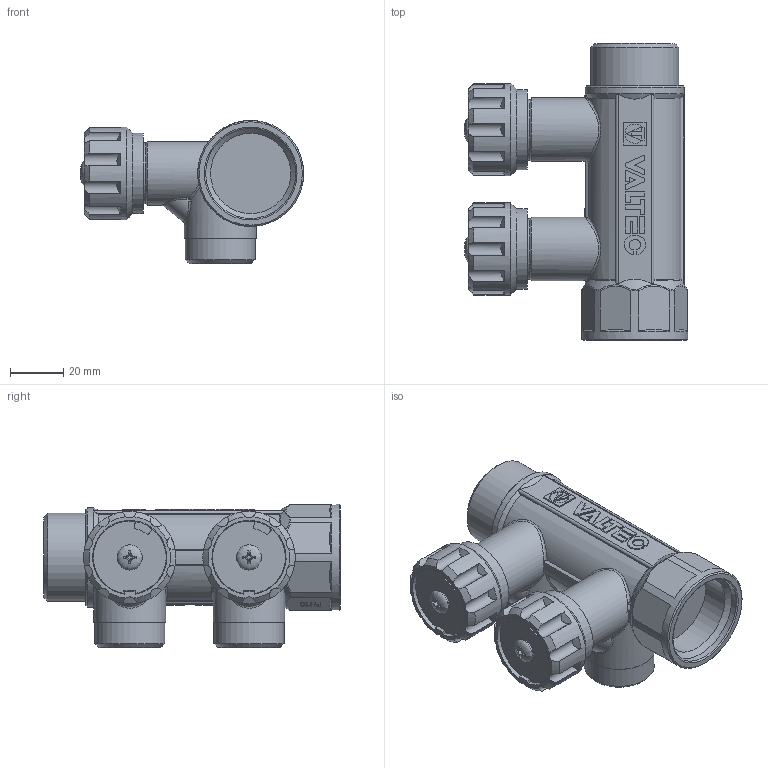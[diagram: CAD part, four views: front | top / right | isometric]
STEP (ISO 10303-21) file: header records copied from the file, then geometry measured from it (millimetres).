
FILE_DESCRIPTION(('STEP AP203'), '1');
FILE_NAME('VTc.570.NE.0602', '2024-06-18T07:21:11', ('User'), ('Vesta'), 'C3D Converter', 'C3D Toolkit', '');
FILE_SCHEMA(('CONFIG_CONTROL_DESIGN'));
Length unit declared in the file: millimetre
Products named in the file (1): ВР.622621.018.000 СБ
Bounding box: 84.28 x 112 x 54 mm (x, y, z)
Volume: 177692.1 mm3; surface area: 32518.7 mm2
Topology: 1 solids, 1 shells, 964 faces, 2685 edges, 1771 vertices
Faces by surface type: plane 396, extrusion 350, cylinder 108, cone 65, bspline 31, torus 14
Full cylindrical faces by diameter (mm): 9.5 x2, 18.1 x2, 23 x2, 24 x2, 25 x1, 26.441 x2, 27.1 x2, 30.292 x1, 30.3 x2, 33.249 x1, 34 x1, 34.8 x2, 37.5 x1, 40 x1
Entity records: 44319 total; most frequent: CARTESIAN_POINT 21688, ORIENTED_EDGE 5276, DIRECTION 3423, EDGE_CURVE 2638, VERTEX_POINT 1770, VECTOR 1659, LINE 1309, B_SPLINE_CURVE_WITH_KNOTS 1304
